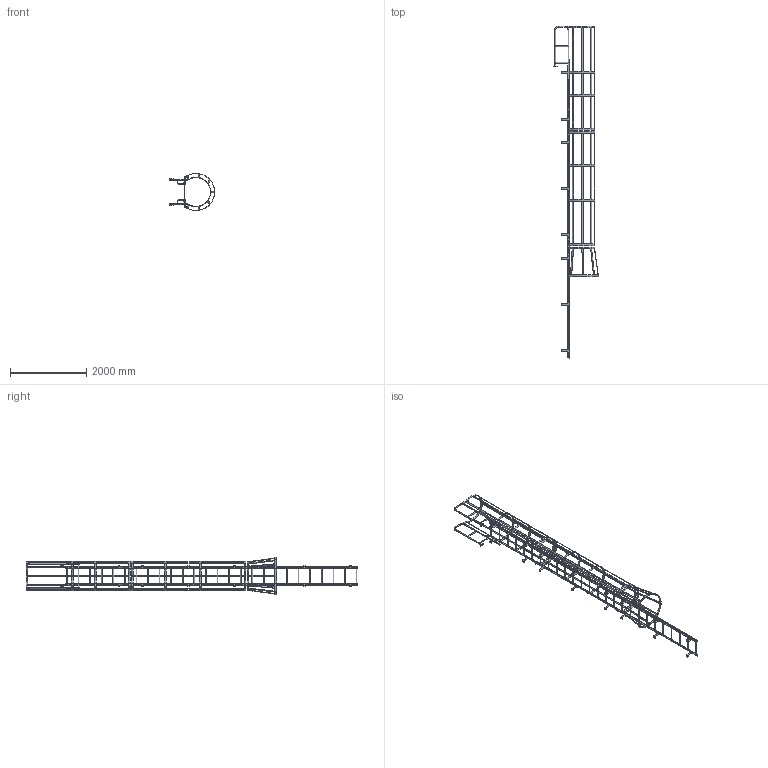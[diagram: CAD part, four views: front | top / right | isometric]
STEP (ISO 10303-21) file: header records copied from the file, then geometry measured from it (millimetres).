
FILE_DESCRIPTION(/* description */ (''),/* implementation_level */ '2;1');
FILE_NAME(/* name */ 'P:\MIKEL & KAREN\D0570196-12 F26WC SIMPLIFIED PART.stp',/* time_stamp */ '2018-07-03T08:20:20-04:00',/* author */ ('stephanie'),/* organization */ (''),/* preprocessor_version */ 'ST-DEVELOPER v16.1',/* originating_system */ 'Autodesk Inventor 2016',/* authorisation */ '');
FILE_SCHEMA (('AUTOMOTIVE_DESIGN { 1 0 10303 214 3 1 1 }'));
Length unit declared in the file: centimetre
Products named in the file (1): D0570196-12 F26WC SIMPLIFIED PART
Bounding box: 1195.62 x 8734.42 x 977.88 mm (x, y, z)
Volume: 29631296.3 mm3; surface area: 11276300.1 mm2
Topology: 36 solids, 36 shells, 1017 faces, 3117 edges, 2024 vertices
Faces by surface type: plane 670, cylinder 339, torus 8
Full cylindrical faces by diameter (mm): 10.319 x4, 14.287 x20, 19.05 x26, 22.098 x10, 22.225 x52, 25.4 x10
Entity records: 35519 total; most frequent: CARTESIAN_POINT 6277, ORIENTED_EDGE 5946, DIRECTION 5777, EDGE_CURVE 2911, LINE 2049, VECTOR 2049, VERTEX_POINT 1948, AXIS2_PLACEMENT_3D 1864
